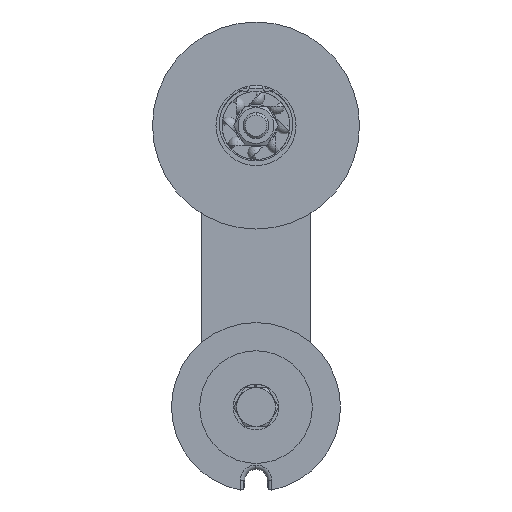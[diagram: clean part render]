
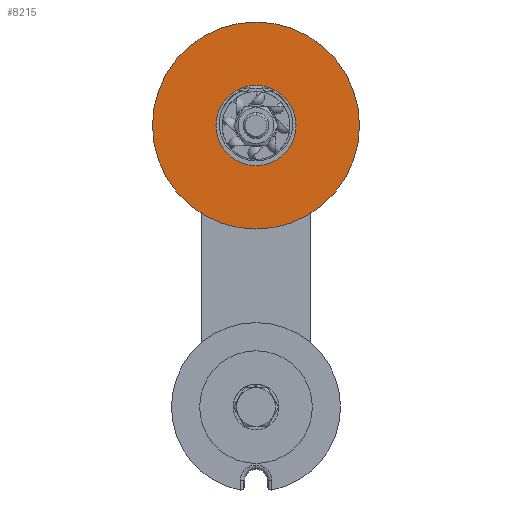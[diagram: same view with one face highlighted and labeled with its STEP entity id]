
A CAD part, front view. The second image highlights one B-rep face of the part: STEP entity #8215.
In plain terms, the highlighted planar face has unit normal (0, -1, 0) as drawn and (1, 0, 0) by its records, which use the part's own axes.
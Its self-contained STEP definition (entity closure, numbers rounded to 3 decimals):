
#7679=CARTESIAN_POINT('',(16.552,0.0,39.86));
#7680=VERTEX_POINT('',#7679);
#7687=CARTESIAN_POINT('',(16.552,0.,-55.74));
#7688=VERTEX_POINT('',#7687);
#7689=CARTESIAN_POINT('',(16.552,0.0,-7.94));
#7690=DIRECTION('',(-1.0,0.0,0.0));
#7691=DIRECTION('',(0.0,0.0,1.0));
#7692=AXIS2_PLACEMENT_3D('',#7689,#7690,#7691);
#7693=CIRCLE('',#7692,47.8);
#7694=EDGE_CURVE('',#7680,#7688,#7693,.T.);
#7713=CARTESIAN_POINT('',(16.552,0.,10.56));
#7714=VERTEX_POINT('',#7713);
#7730=CARTESIAN_POINT('',(16.552,0.,-26.44));
#7731=VERTEX_POINT('',#7730);
#7738=CARTESIAN_POINT('',(16.552,0.0,-7.94));
#7739=DIRECTION('',(-1.0,0.0,0.0));
#7740=DIRECTION('',(0.0,0.0,1.0));
#7741=AXIS2_PLACEMENT_3D('',#7738,#7739,#7740);
#7742=CIRCLE('',#7741,18.5);
#7743=EDGE_CURVE('',#7714,#7731,#7742,.T.);
#8080=CARTESIAN_POINT('',(16.552,0.0,-7.94));
#8081=DIRECTION('',(-1.0,0.0,0.0));
#8082=DIRECTION('',(0.0,0.0,1.0));
#8083=AXIS2_PLACEMENT_3D('',#8080,#8081,#8082);
#8084=CIRCLE('',#8083,18.5);
#8085=EDGE_CURVE('',#7731,#7714,#8084,.T.);
#8106=CARTESIAN_POINT('',(16.552,0.0,-7.94));
#8107=DIRECTION('',(-1.0,0.0,0.0));
#8108=DIRECTION('',(0.0,0.0,1.0));
#8109=AXIS2_PLACEMENT_3D('',#8106,#8107,#8108);
#8110=CIRCLE('',#8109,47.8);
#8111=EDGE_CURVE('',#7688,#7680,#8110,.T.);
#8202=CARTESIAN_POINT('',(16.552,0.0,15.96));
#8203=DIRECTION('',(1.0,0.0,0.0));
#8204=DIRECTION('',(0.0,0.0,-1.0));
#8205=AXIS2_PLACEMENT_3D('',#8202,#8203,#8204);
#8206=PLANE('',#8205);
#8207=ORIENTED_EDGE('',*,*,#7694,.F.);
#8208=ORIENTED_EDGE('',*,*,#8111,.F.);
#8209=EDGE_LOOP('',(#8207,#8208));
#8210=FACE_OUTER_BOUND('',#8209,.T.);
#8211=ORIENTED_EDGE('',*,*,#8085,.T.);
#8212=ORIENTED_EDGE('',*,*,#7743,.T.);
#8213=EDGE_LOOP('',(#8211,#8212));
#8214=FACE_BOUND('',#8213,.T.);
#8215=ADVANCED_FACE('',(#8210,#8214),#8206,.T.);
